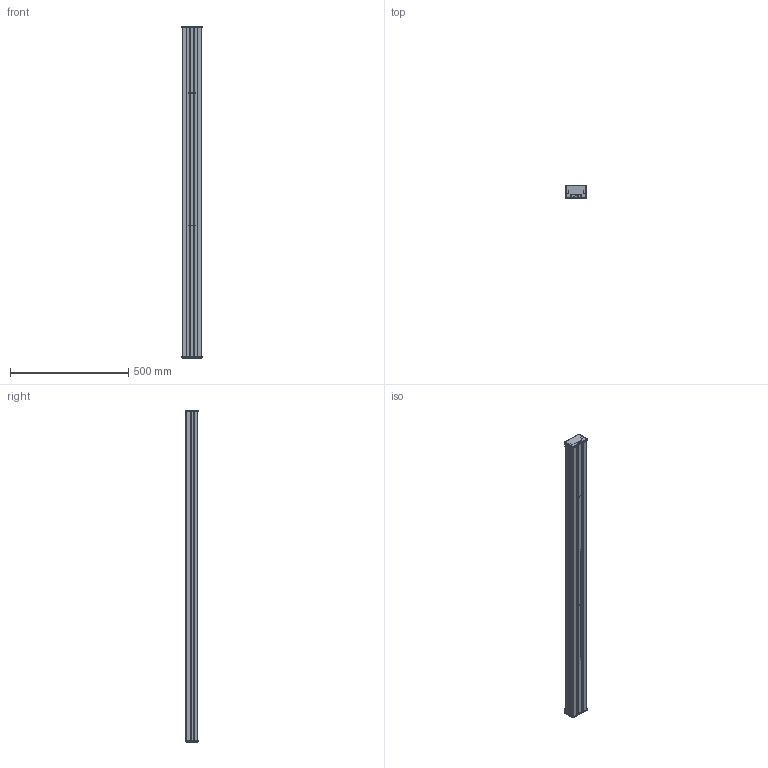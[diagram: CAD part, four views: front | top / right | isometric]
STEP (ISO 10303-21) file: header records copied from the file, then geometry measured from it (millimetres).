
FILE_DESCRIPTION(/* description */ (''),/* implementation_level */ '2;1');
FILE_NAME(/* name */ 'GDO_SYS_GDS14.stp',/* time_stamp */ '2025-09-10T17:15:51+02:00',/* author */ ('gian.noche'),/* organization */ (''),/* preprocessor_version */ 'ST-DEVELOPER v19.2',/* originating_system */ 'Autodesk Inventor 2023',/* authorisation */ '');
FILE_SCHEMA (('AUTOMOTIVE_DESIGN { 1 0 10303 214 3 1 1 }'));
Length unit declared in the file: millimetre
Products named in the file (1): GDO_SYS_GDS14_Semplifica_1
Bounding box: 86 x 53.7 x 1402 mm (x, y, z)
Volume: 514826.4 mm3; surface area: 925211.3 mm2
Topology: 1 solids, 1 shells, 1186 faces, 3339 edges, 2110 vertices
Faces by surface type: plane 713, cylinder 394, bspline 64, cone 15
Entity records: 42933 total; most frequent: CARTESIAN_POINT 12294, ORIENTED_EDGE 6682, DIRECTION 6141, EDGE_CURVE 3341, LINE 2347, VECTOR 2347, VERTEX_POINT 2110, AXIS2_PLACEMENT_3D 1897
